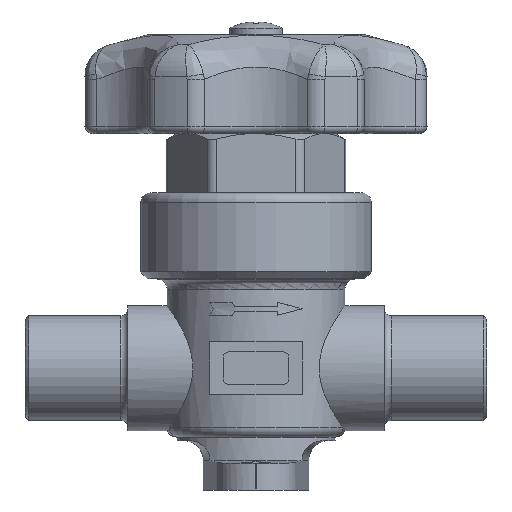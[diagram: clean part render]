
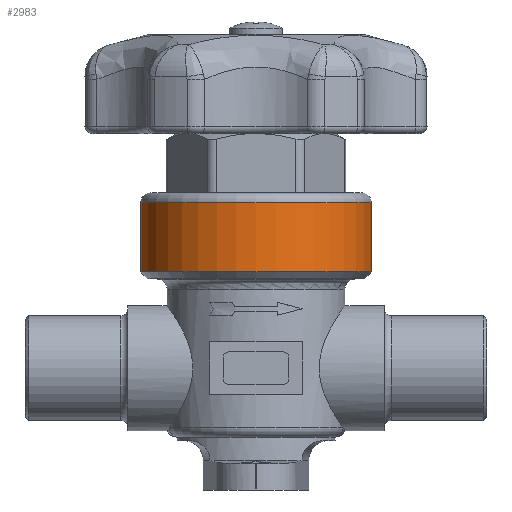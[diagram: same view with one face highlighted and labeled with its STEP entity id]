
A CAD part, front view. The second image highlights one B-rep face of the part: STEP entity #2983.
In plain terms, the highlighted cylindrical face has radius 17.5 mm (diameter 35 mm), a full revolution.
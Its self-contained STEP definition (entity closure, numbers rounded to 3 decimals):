
#2655=CYLINDRICAL_SURFACE('',#18275,17.5);
#2983=ADVANCED_FACE('',(#4077,#4078),#2655,.T.);
#4077=FACE_BOUND('',#5457,.T.);
#4078=FACE_BOUND('',#5458,.T.);
#5457=EDGE_LOOP('',(#8279));
#5458=EDGE_LOOP('',(#8280));
#8279=ORIENTED_EDGE('',*,*,#14879,.T.);
#8280=ORIENTED_EDGE('',*,*,#14880,.T.);
#13138=VERTEX_POINT('',#25338);
#13139=VERTEX_POINT('',#25340);
#14879=EDGE_CURVE('',#13138,#13138,#17281,.T.);
#14880=EDGE_CURVE('',#13139,#13139,#17282,.T.);
#17281=CIRCLE('',#18273,17.5);
#17282=CIRCLE('',#18274,17.5);
#18273=AXIS2_PLACEMENT_3D('',#25337,#20388,#20389);
#18274=AXIS2_PLACEMENT_3D('',#25339,#20390,#20391);
#18275=AXIS2_PLACEMENT_3D('',#25341,#20392,#20393);
#20388=DIRECTION('',(0.,0.,1.));
#20389=DIRECTION('',(1.,0.,0.));
#20390=DIRECTION('',(0.,0.,-1.));
#20391=DIRECTION('',(1.,0.,0.));
#20392=DIRECTION('',(0.,0.,1.));
#20393=DIRECTION('',(1.,0.,0.));
#25337=CARTESIAN_POINT('',(0.,0.,-2.));
#25338=CARTESIAN_POINT('',(17.5,0.,-2.));
#25339=CARTESIAN_POINT('',(0.,0.,8.5));
#25340=CARTESIAN_POINT('',(17.5,0.,8.5));
#25341=CARTESIAN_POINT('',(0.,0.,-4.5));
